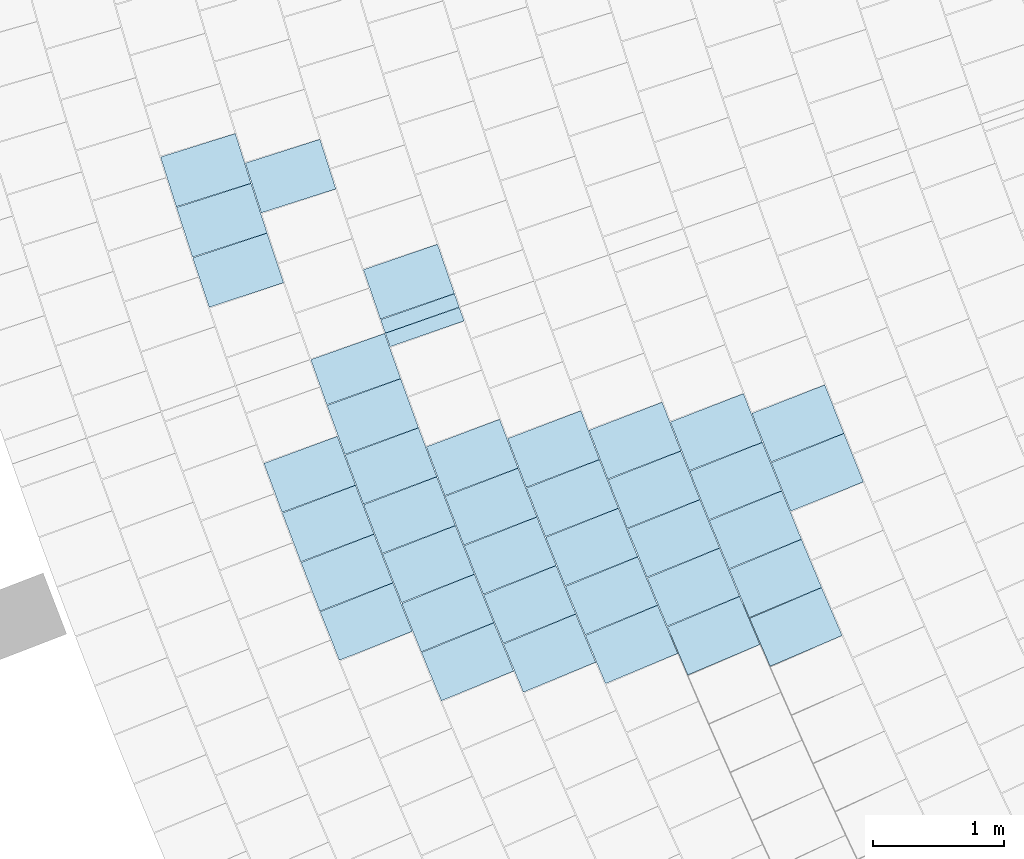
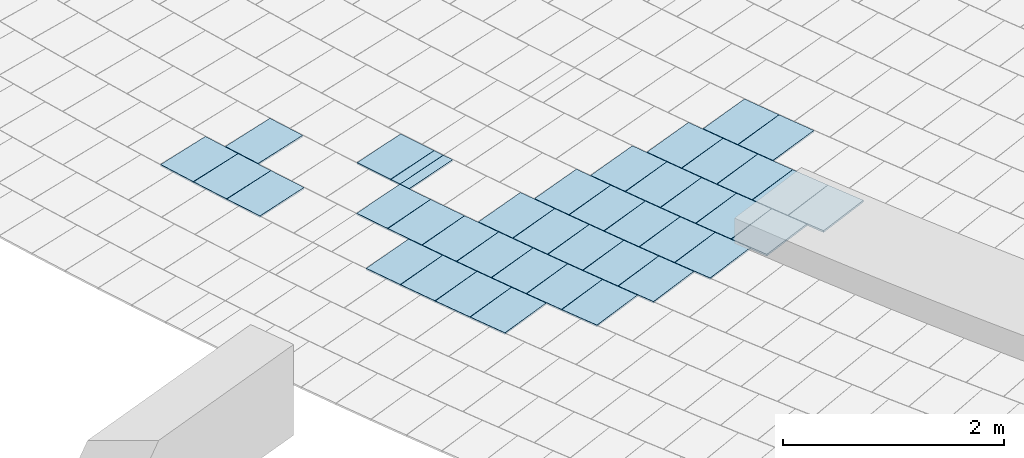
# One storey, part 69 of 438: 40 slabs.
"""IFC2X3 building model written with IfcOpenShell, lengths in millimetres."""

from ifc_helpers import new_model, entity, si_unit, converted_unit, derived_unit, direction, frame, frame_2d, origin, place, context, subcontext, project, spatial, polyline, rectangle, outline, extrude, material, layer, layer_set, layer_usage, type_object, element, save


model = new_model("IFC2X3")

# Units and contexts
model_context = context("Model", 3, precision=0.01, world=origin(), true_north=direction((6.123031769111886e-17, 1.0)))
body_context = subcontext(model_context, "Body", "Model", "MODEL_VIEW")
ifc_project = project(units=[si_unit("LENGTHUNIT", "METRE", prefix="MILLI"), si_unit("AREAUNIT", "SQUARE_METRE"), si_unit("VOLUMEUNIT", "CUBIC_METRE"), converted_unit("PLANEANGLEUNIT", "DEGREE", entity("IfcRatioMeasure", 0.017453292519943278), si_unit("PLANEANGLEUNIT", "RADIAN"), dimensions=[0, 0, 0, 0, 0, 0, 0]), si_unit("MASSUNIT", "GRAM", prefix="KILO"), derived_unit("MASSDENSITYUNIT", [(si_unit("MASSUNIT", "GRAM", prefix="KILO"), 1), (si_unit("LENGTHUNIT", "METRE"), -3)]), derived_unit("MOMENTOFINERTIAUNIT", [(si_unit("LENGTHUNIT", "METRE"), 4)]), si_unit("TIMEUNIT", "SECOND"), si_unit("FREQUENCYUNIT", "HERTZ"), si_unit("THERMODYNAMICTEMPERATUREUNIT", "DEGREE_CELSIUS"), derived_unit("THERMALTRANSMITTANCEUNIT", [(si_unit("MASSUNIT", "GRAM", prefix="KILO"), 1), (si_unit("THERMODYNAMICTEMPERATUREUNIT", "KELVIN"), -1), (si_unit("TIMEUNIT", "SECOND"), -3)]), derived_unit("THERMALCONDUCTANCEUNIT", [(si_unit("MASSUNIT", "GRAM", prefix="KILO"), 1), (si_unit("LENGTHUNIT", "METRE"), 1), (si_unit("THERMODYNAMICTEMPERATUREUNIT", "KELVIN"), -1), (si_unit("TIMEUNIT", "SECOND"), -3)]), derived_unit("VOLUMETRICFLOWRATEUNIT", [(si_unit("LENGTHUNIT", "METRE"), 3), (si_unit("TIMEUNIT", "SECOND"), -1)]), derived_unit("MASSFLOWRATEUNIT", [(si_unit("MASSUNIT", "GRAM", prefix="KILO"), 1), (si_unit("TIMEUNIT", "SECOND"), -1)]), derived_unit("ROTATIONALFREQUENCYUNIT", [(si_unit("TIMEUNIT", "SECOND"), -1)]), si_unit("ELECTRICCURRENTUNIT", "AMPERE"), si_unit("ELECTRICVOLTAGEUNIT", "VOLT"), si_unit("POWERUNIT", "WATT"), converted_unit("FORCEUNIT", "KIP", entity("IfcRatioMeasure", 2.088543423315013e-05), si_unit("FORCEUNIT", "NEWTON"), dimensions=[1, 1, -2, 0, 0, 0, 0]), si_unit("ILLUMINANCEUNIT", "LUX"), si_unit("LUMINOUSFLUXUNIT", "LUMEN"), si_unit("LUMINOUSINTENSITYUNIT", "CANDELA"), derived_unit("USERDEFINED", [(si_unit("MASSUNIT", "GRAM", prefix="KILO"), -1), (si_unit("LENGTHUNIT", "METRE"), -2), (si_unit("TIMEUNIT", "SECOND"), 3), (si_unit("LUMINOUSFLUXUNIT", "LUMEN"), 1)]), derived_unit("USERDEFINED", [(si_unit("MASSUNIT", "GRAM", prefix="KILO"), 1), (si_unit("LENGTHUNIT", "METRE"), 3), (si_unit("TIMEUNIT", "SECOND"), -3), (si_unit("ELECTRICCURRENTUNIT", "AMPERE"), -2)]), derived_unit("USERDEFINED", [(si_unit("LENGTHUNIT", "METRE"), 2), (si_unit("TIMEUNIT", "SECOND"), -2)]), derived_unit("SOUNDPOWERUNIT", [(si_unit("MASSUNIT", "GRAM", prefix="KILO"), 1), (si_unit("LENGTHUNIT", "METRE"), 2), (si_unit("TIMEUNIT", "SECOND"), -3)]), derived_unit("SOUNDPRESSUREUNIT", [(si_unit("MASSUNIT", "GRAM", prefix="KILO"), 1), (si_unit("LENGTHUNIT", "METRE"), -1), (si_unit("TIMEUNIT", "SECOND"), -2)]), derived_unit("LINEARVELOCITYUNIT", [(si_unit("LENGTHUNIT", "METRE"), 1), (si_unit("TIMEUNIT", "SECOND"), -1)]), si_unit("PRESSUREUNIT", "PASCAL"), derived_unit("USERDEFINED", [(si_unit("LENGTHUNIT", "METRE"), -2), (si_unit("MASSUNIT", "GRAM", prefix="KILO"), 1), (si_unit("TIMEUNIT", "SECOND"), -2)]), derived_unit("LINEARFORCEUNIT", [(si_unit("MASSUNIT", "GRAM", prefix="KILO"), 1), (si_unit("LENGTHUNIT", "METRE"), 1), (si_unit("TIMEUNIT", "SECOND"), -2), (si_unit("LENGTHUNIT", "METRE"), -1)]), derived_unit("PLANARFORCEUNIT", [(si_unit("MASSUNIT", "GRAM", prefix="KILO"), 1), (si_unit("LENGTHUNIT", "METRE"), 1), (si_unit("TIMEUNIT", "SECOND"), -2), (si_unit("LENGTHUNIT", "METRE"), -2)]), derived_unit("SPECIFICHEATCAPACITYUNIT", [(si_unit("LENGTHUNIT", "METRE"), 2), (si_unit("TIMEUNIT", "SECOND"), -2), (si_unit("THERMODYNAMICTEMPERATUREUNIT", "KELVIN"), -1)]), derived_unit("VAPORPERMEABILITYUNIT", [(si_unit("TIMEUNIT", "SECOND"), 1), (si_unit("LENGTHUNIT", "METRE"), -1)]), derived_unit("DYNAMICVISCOSITYUNIT", [(si_unit("MASSUNIT", "GRAM", prefix="KILO"), 1), (si_unit("LENGTHUNIT", "METRE"), -1), (si_unit("TIMEUNIT", "SECOND"), -1)]), derived_unit("THERMALEXPANSIONCOEFFICIENTUNIT", [(si_unit("THERMODYNAMICTEMPERATUREUNIT", "KELVIN"), -1)])], contexts=[model_context])

# Site, building, storey
site_placement = place(None, frame((0.0, 0.0, 0.0), z_axis=(0.0, 0.0, 1.0), x_axis=(0.8191520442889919, 0.5735764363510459, 0.0)))
site = spatial("IfcSite", under=ifc_project, at=site_placement, Name="Default", CompositionType="ELEMENT")
building_placement = place(site_placement, origin())
building = spatial("IfcBuilding", under=site, at=building_placement, CompositionType="ELEMENT")
storey_placement = place(building_placement, origin())
storey = spatial("IfcBuildingStorey", under=building, at=storey_placement, Name="PLAN", CompositionType="ELEMENT", Elevation=0.0)

# Slabs
ifc_material = material(Name="Paint-01")
ifc_layer = layer(ifc_material, 20.00000000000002)
ifc_layer_set = layer_set([ifc_layer], Name="Floor:Slab-179:1000")
ifc_layer_usage = layer_usage(ifc_layer_set, "AXIS3", "POSITIVE", 0.0)
slab_type = type_object("IfcSlabType", Name="Floor:Slab-179:1000", PredefinedType="FLOOR", material=ifc_layer_set)
slab_1_placement = place(storey_placement, origin())
element("IfcSlab", 1, at=slab_1_placement, inside=storey, type_object=slab_type, material=ifc_layer_usage, Name="Floor:Slab-179:1000", ObjectType="Floor:Slab-179:1000", PredefinedType="FLOOR", context=body_context, shape_type="SweptSolid", body=[
    extrude(outline(polyline([(-200.00000453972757, -299.9999986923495), (200.00000134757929, -299.9999986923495), (200.00000453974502, 299.9999986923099), (-200.00000134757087, 299.9999986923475), (-200.00000453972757, -299.9999986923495)])), frame((-85806.85653286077, -57363.253974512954, 520.0), z_axis=(0.0, 0.0, -1.0), x_axis=(-0.226645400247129, -0.973977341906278, 0.0)), (0.0, 0.0, 1.0), 20.000000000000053),
])
slab_2_placement = place(storey_placement, origin())
element("IfcSlab", 2, at=slab_2_placement, inside=storey, type_object=slab_type, material=ifc_layer_usage, Name="Floor:Slab-179:1000", ObjectType="Floor:Slab-179:1000", PredefinedType="FLOOR", context=body_context, shape_type="SweptSolid", body=[
    extrude(outline(polyline([(-200.00000453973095, -299.9999986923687), (200.00000134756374, -299.99999869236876), (200.00000453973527, 299.99999869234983), (-200.0000013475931, 299.999998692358), (-200.00000453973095, -299.9999986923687)])), frame((-85713.92381791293, -56971.54469701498, 520.0), z_axis=(0.0, 0.0, -1.0), x_axis=(-0.2350331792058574, -0.9719873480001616, 0.0)), (0.0, 0.0, 1.0), 20.000000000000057),
])
slab_3_placement = place(storey_placement, origin())
element("IfcSlab", 3, at=slab_3_placement, inside=storey, type_object=slab_type, material=ifc_layer_usage, Name="Floor:Slab-179:1000", ObjectType="Floor:Slab-179:1000", PredefinedType="FLOOR", context=body_context, shape_type="SweptSolid", body=[
    extrude(outline(polyline([(-300.0, -200.0000029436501), (299.9999976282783, -200.0000029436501), (300.0, 200.00000294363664), (-299.9999976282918, 200.00000294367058), (-300.0, -200.0000029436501)])), frame((-86619.99740185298, -58238.36768819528, 520.0), z_axis=(0.0, 0.0, -1.0), x_axis=(0.9787101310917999, -0.20524736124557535, 0.0)), (0.0, 0.0, 1.0), 20.000000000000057),
])
slab_4_placement = place(storey_placement, origin())
element("IfcSlab", 4, at=slab_4_placement, inside=storey, type_object=slab_type, material=ifc_layer_usage, Name="Floor:Slab-179:1000", ObjectType="Floor:Slab-179:1000", PredefinedType="FLOOR", context=body_context, shape_type="SweptSolid", body=[
    extrude(outline(polyline([(-300.0, -200.0000029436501), (299.9999976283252, -200.0000029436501), (300.0, 200.00000294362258), (-299.9999976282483, 200.0000029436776), (-300.0, -200.0000029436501)])), frame((-86535.69965867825, -57844.74373704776, 520.0), z_axis=(0.0, 0.0, -1.0), x_axis=(0.9769281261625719, -0.21356834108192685, 0.0)), (0.0, 0.0, 1.0), 20.000000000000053),
])
slab_5_placement = place(storey_placement, origin())
element("IfcSlab", 5, at=slab_5_placement, inside=storey, type_object=slab_type, material=ifc_layer_usage, Name="Floor:Slab-179:1000", ObjectType="Floor:Slab-179:1000", PredefinedType="FLOOR", context=body_context, shape_type="SweptSolid", body=[
    extrude(outline(polyline([(-300.0, -200.00000294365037), (299.9999976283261, -200.00000294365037), (300.0, 200.00000294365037), (-299.99999762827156, 200.0000029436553), (-300.0, -200.00000294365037)])), frame((-86357.07095314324, -57059.71905666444, 520.0), z_axis=(0.0, 0.0, -1.0), x_axis=(0.9731520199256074, -0.23016330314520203, 0.0)), (0.0, 0.0, 1.0), 20.000000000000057),
])
slab_6_placement = place(storey_placement, origin())
element("IfcSlab", 6, at=slab_6_placement, inside=storey, type_object=slab_type, material=ifc_layer_usage, Name="Floor:Slab-179:1000", ObjectType="Floor:Slab-179:1000", PredefinedType="FLOOR", context=body_context, shape_type="SweptSolid", body=[
    extrude(outline(polyline([(-300.0, -200.0000029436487), (299.99999762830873, -200.0000029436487), (300.0, 200.0000029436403), (-299.99999762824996, 200.00000294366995), (-300.0, -200.0000029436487)])), frame((-86262.75292604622, -56668.375174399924, 520.0), z_axis=(0.0, 0.0, -1.0), x_axis=(0.9711581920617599, -0.23843608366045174, 0.0)), (0.0, 0.0, 1.0), 20.000000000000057),
])
slab_7_placement = place(storey_placement, origin())
element("IfcSlab", 7, at=slab_7_placement, inside=storey, type_object=slab_type, material=ifc_layer_usage, Name="Floor:Slab-179:1000", ObjectType="Floor:Slab-179:1000", PredefinedType="FLOOR", context=body_context, shape_type="SweptSolid", body=[
    extrude(outline(polyline([(-300.0, -200.0000029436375), (299.9999976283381, -200.0000029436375), (300.0, 200.00000294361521), (-299.9999976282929, 200.00000294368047), (-300.0, -200.0000029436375)])), frame((-86448.05539354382, -57451.85137620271, 520.0), z_axis=(0.0, 0.0, -1.0), x_axis=(0.9750753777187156, -0.22187385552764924, 0.0)), (0.0, 0.0, 1.0), 19.99999999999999),
])
slab_8_placement = place(storey_placement, origin())
element("IfcSlab", 8, at=slab_8_placement, inside=storey, type_object=slab_type, material=ifc_layer_usage, Name="Floor:Slab-179:1000", ObjectType="Floor:Slab-179:1000", PredefinedType="FLOOR", context=body_context, shape_type="SweptSolid", body=[
    extrude(outline(polyline([(-300.0, -200.0000029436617), (299.99999762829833, -200.00000294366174), (300.0, 200.00000294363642), (-299.99999762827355, 200.0000029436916), (-300.0, -200.0000029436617)])), frame((-86998.75640087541, -57146.70456927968, 520.0), z_axis=(0.0, 0.0, -1.0), x_axis=(0.9742567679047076, -0.22544123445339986, 0.0)), (0.0, 0.0, 1.0), 19.999999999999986),
])
slab_9_placement = place(storey_placement, origin())
element("IfcSlab", 9, at=slab_9_placement, inside=storey, type_object=slab_type, material=ifc_layer_usage, Name="Floor:Slab-179:1000", ObjectType="Floor:Slab-179:1000", PredefinedType="FLOOR", context=body_context, shape_type="SweptSolid", body=[
    extrude(outline(polyline([(-300.0, -200.0000029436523), (299.9999976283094, -200.0000029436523), (300.0, 200.00000294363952), (-299.9999976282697, 200.00000294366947), (-300.0, -200.0000029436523)])), frame((-86906.36593836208, -56754.93437642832, 520.0), z_axis=(0.0, 0.0, -1.0), x_axis=(0.9723283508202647, -0.23361844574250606, 0.0)), (0.0, 0.0, 1.0), 20.000000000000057),
])
slab_10_placement = place(storey_placement, origin())
element("IfcSlab", 10, at=slab_10_placement, inside=storey, type_object=slab_type, material=ifc_layer_usage, Name="Floor:Slab-179:1000", ObjectType="Floor:Slab-179:1000", PredefinedType="FLOOR", context=body_context, shape_type="SweptSolid", body=[
    extrude(outline(polyline([(-300.0, -200.00000294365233), (299.9999976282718, -200.00000294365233), (300.0, 200.00000294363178), (-299.99999762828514, 200.0000029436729), (-300.0, -200.00000294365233)])), frame((-87173.6469439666, -57932.504408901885, 520.0), z_axis=(0.0, 0.0, -1.0), x_axis=(0.977907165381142, -0.20903965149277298, 0.0)), (0.0, 0.0, 1.0), 19.99999999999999),
])
slab_11_placement = place(storey_placement, origin())
element("IfcSlab", 11, at=slab_11_placement, inside=storey, type_object=slab_type, material=ifc_layer_usage, Name="Floor:Slab-179:1000", ObjectType="Floor:Slab-179:1000", PredefinedType="FLOOR", context=body_context, shape_type="SweptSolid", body=[
    extrude(outline(polyline([(-300.0, -200.00000294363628), (299.9999976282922, -200.0000029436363), (300.0, 200.00000294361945), (-299.9999976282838, 200.0000029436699), (-300.0, -200.00000294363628)])), frame((-86810.68729959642, -56363.95422392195, 520.0), z_axis=(0.0, 0.0, -1.0), x_axis=(0.970331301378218, -0.24177916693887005, 0.0)), (0.0, 0.0, 1.0), 20.000000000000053),
])
slab_12_placement = place(storey_placement, origin())
element("IfcSlab", 12, at=slab_12_placement, inside=storey, type_object=slab_type, material=ifc_layer_usage, Name="Floor:Slab-179:1000", ObjectType="Floor:Slab-179:1000", PredefinedType="FLOOR", context=body_context, shape_type="SweptSolid", body=[
    extrude(outline(polyline([(-300.0, -200.00000294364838), (299.9999976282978, -200.00000294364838), (300.0, 200.00000294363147), (-299.9999976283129, 200.0000029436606), (-300.0, -200.00000294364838)])), frame((-87087.85216570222, -57539.237149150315, 520.0), z_axis=(0.0, 0.0, -1.0), x_axis=(0.976116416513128, -0.21724811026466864, 0.0)), (0.0, 0.0, 1.0), 19.99999999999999),
])
slab_13_placement = place(storey_placement, origin())
element("IfcSlab", 13, at=slab_13_placement, inside=storey, type_object=slab_type, material=ifc_layer_usage, Name="Floor:Slab-179:1000", ObjectType="Floor:Slab-179:1000", PredefinedType="FLOOR", context=body_context, shape_type="SweptSolid", body=[
    extrude(outline(polyline([(-300.0, -200.0000029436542), (299.99999762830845, -200.0000029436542), (300.0, 200.00000294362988), (-299.99999762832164, 200.00000294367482), (-300.0, -200.0000029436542)])), frame((-87726.61623565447, -57626.8163084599, 520.0), z_axis=(0.0, 0.0, -1.0), x_axis=(0.9771102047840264, -0.2127337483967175, 0.0)), (0.0, 0.0, 1.0), 20.000000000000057),
])
slab_14_placement = place(storey_placement, origin())
element("IfcSlab", 14, at=slab_14_placement, inside=storey, type_object=slab_type, material=ifc_layer_usage, Name="Floor:Slab-179:1000", ObjectType="Floor:Slab-179:1000", PredefinedType="FLOOR", context=body_context, shape_type="SweptSolid", body=[
    extrude(outline(polyline([(-300.0, -200.00000294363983), (299.9999976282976, -200.00000294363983), (300.0, 200.00000294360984), (-299.99999762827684, 200.00000294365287), (-300.0, -200.00000294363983)])), frame((-87639.36343070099, -57233.90227026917, 520.0), z_axis=(0.0, 0.0, -1.0), x_axis=(0.9753117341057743, -0.22083256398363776, 0.0)), (0.0, 0.0, 1.0), 20.000000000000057),
])
slab_15_placement = place(storey_placement, origin())
element("IfcSlab", 15, at=slab_15_placement, inside=storey, type_object=slab_type, material=ifc_layer_usage, Name="Floor:Slab-179:1000", ObjectType="Floor:Slab-179:1000", PredefinedType="FLOOR", context=body_context, shape_type="SweptSolid", body=[
    extrude(outline(polyline([(-300.0, -200.00000294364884), (299.99999762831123, -200.00000294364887), (300.0, 200.00000294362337), (-299.9999976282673, 200.00000294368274), (-300.0, -200.00000294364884)])), frame((-87455.09417708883, -56450.31330507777, 520.0), z_axis=(0.0, 0.0, -1.0), x_axis=(0.9715135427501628, -0.23698404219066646, 0.0)), (0.0, 0.0, 1.0), 20.000000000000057),
])
slab_16_placement = place(storey_placement, origin())
element("IfcSlab", 16, at=slab_16_placement, inside=storey, type_object=slab_type, material=ifc_layer_usage, Name="Floor:Slab-179:1000", ObjectType="Floor:Slab-179:1000", PredefinedType="FLOOR", context=body_context, shape_type="SweptSolid", body=[
    extrude(outline(polyline([(-300.0, -200.00000294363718), (299.99999762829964, -200.00000294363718), (300.0, 200.0000029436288), (-299.9999976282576, 200.00000294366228), (-300.0, -200.00000294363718)])), frame((-87358.0904108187, -56059.692308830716, 520.0), z_axis=(0.0, 0.0, -1.0), x_axis=(0.9695140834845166, -0.2450355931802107, 0.0)), (0.0, 0.0, 1.0), 20.000000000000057),
])
slab_17_placement = place(storey_placement, origin())
element("IfcSlab", 17, at=slab_17_placement, inside=storey, type_object=slab_type, material=ifc_layer_usage, Name="Floor:Slab-179:1000", ObjectType="Floor:Slab-179:1000", PredefinedType="FLOOR", context=body_context, shape_type="SweptSolid", body=[
    extrude(outline(polyline([(-300.0, -200.00000294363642), (299.99999762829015, -200.00000294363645), (300.0, 200.0000029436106), (-299.9999976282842, 200.0000029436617), (-300.0, -200.00000294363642)])), frame((-87548.85400139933, -56841.7256052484, 520.0), z_axis=(0.0, 0.0, -1.0), x_axis=(0.9734461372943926, -0.22891618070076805, 0.0)), (0.0, 0.0, 1.0), 19.99999999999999),
])
slab_18_placement = place(storey_placement, origin())
element("IfcSlab", 18, at=slab_18_placement, inside=storey, type_object=slab_type, material=ifc_layer_usage, Name="Floor:Slab-179:1000", ObjectType="Floor:Slab-179:1000", PredefinedType="FLOOR", context=body_context, shape_type="SweptSolid", body=[
    extrude(outline(polyline([(-300.0, -200.00000294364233), (299.99999762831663, -200.00000294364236), (300.0, 200.00000294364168), (-299.99999762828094, 200.00000294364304), (-300.0, -200.00000294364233)])), frame((-88190.25795387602, -56928.7349743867, 520.0), z_axis=(0.0, 0.0, -1.0), x_axis=(0.9745143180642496, -0.22432530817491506, 0.0)), (0.0, 0.0, 1.0), 19.99999999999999),
])
slab_19_placement = place(storey_placement, origin())
element("IfcSlab", 19, at=slab_19_placement, inside=storey, type_object=slab_type, material=ifc_layer_usage, Name="Floor:Slab-179:1000", ObjectType="Floor:Slab-179:1000", PredefinedType="FLOOR", context=body_context, shape_type="SweptSolid", body=[
    extrude(outline(polyline([(-300.0, -200.00000294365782), (299.99999762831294, -200.00000294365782), (300.0, 200.00000294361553), (-299.9999976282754, 200.00000294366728), (-300.0, -200.00000294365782)])), frame((-88278.93126083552, -57321.2993386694, 520.0), z_axis=(0.0, 0.0, -1.0), x_axis=(0.9763195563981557, -0.2163333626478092, 0.0)), (0.0, 0.0, 1.0), 20.000000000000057),
])
slab_20_placement = place(storey_placement, origin())
element("IfcSlab", 20, at=slab_20_placement, inside=storey, type_object=slab_type, material=ifc_layer_usage, Name="Floor:Slab-179:1000", ObjectType="Floor:Slab-179:1000", PredefinedType="FLOOR", context=body_context, shape_type="SweptSolid", body=[
    extrude(outline(polyline([(-300.0, -200.00000294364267), (299.9999976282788, -200.00000294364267), (300.0, 200.000002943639), (-299.99999762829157, 200.00000294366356), (-300.0, -200.00000294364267)])), frame((-88098.37125468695, -56536.91030698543, 520.0), z_axis=(0.0, 0.0, -1.0), x_axis=(0.9726436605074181, -0.23230219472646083, 0.0)), (0.0, 0.0, 1.0), 19.99999999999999),
])
slab_21_placement = place(storey_placement, origin())
element("IfcSlab", 21, at=slab_21_placement, inside=storey, type_object=slab_type, material=ifc_layer_usage, Name="Floor:Slab-179:1000", ObjectType="Floor:Slab-179:1000", PredefinedType="FLOOR", context=body_context, shape_type="SweptSolid", body=[
    extrude(outline(polyline([(-300.0, -200.00000294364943), (299.999997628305, -200.00000294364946), (300.0, 200.00000294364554), (-299.999997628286, 200.00000294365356), (-300.0, -200.00000294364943)])), frame((-87904.98256836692, -55755.58522428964, 520.0), z_axis=(0.0, 0.0, -1.0), x_axis=(0.9687065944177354, -0.24820864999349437, 0.0)), (0.0, 0.0, 1.0), 20.000000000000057),
])
slab_22_placement = place(storey_placement, origin())
element("IfcSlab", 22, at=slab_22_placement, inside=storey, type_object=slab_type, material=ifc_layer_usage, Name="Floor:Slab-179:1000", ObjectType="Floor:Slab-179:1000", PredefinedType="FLOOR", context=body_context, shape_type="SweptSolid", body=[
    extrude(outline(polyline([(-300.0, -200.00000294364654), (299.99999762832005, -200.00000294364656), (300.0, 200.0000029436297), (-299.9999976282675, 200.00000294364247), (-300.0, -200.00000294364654)])), frame((-88003.27733162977, -56145.85163968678, 520.0), z_axis=(0.0, 0.0, -1.0), x_axis=(0.9707077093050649, -0.24026348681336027, 0.0)), (0.0, 0.0, 1.0), 19.99999999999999),
])
slab_23_placement = place(storey_placement, origin())
element("IfcSlab", 23, at=slab_23_placement, inside=storey, type_object=slab_type, material=ifc_layer_usage, Name="Floor:Slab-179:1000", ObjectType="Floor:Slab-179:1000", PredefinedType="FLOOR", context=body_context, shape_type="SweptSolid", body=[
    extrude(outline(polyline([(-299.99999898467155, -54.944499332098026), (299.9999984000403, -54.944499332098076), (299.99999898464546, 54.94449933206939), (-299.9999984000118, 54.94449933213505), (-299.99999898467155, -54.944499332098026)])), frame((-87630.40698293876, -54729.39008804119, 520.0), z_axis=(0.0, 0.0, -1.0), x_axis=(0.9623136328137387, -0.27194203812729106, 0.0)), (0.0, 0.0, 1.0), 19.999999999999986),
])
slab_24_placement = place(storey_placement, origin())
element("IfcSlab", 24, at=slab_24_placement, inside=storey, type_object=slab_type, material=ifc_layer_usage, Name="Floor:Slab-179:1000", ObjectType="Floor:Slab-179:1000", PredefinedType="FLOOR", context=body_context, shape_type="SweptSolid", body=[
    extrude(outline(polyline([(-300.0, -200.0000029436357), (299.999997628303, -200.0000029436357), (300.0, 200.0000029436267), (-299.9999976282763, 200.00000294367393), (-300.0, -200.0000029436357)])), frame((-88740.55901155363, -56623.73122591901, 520.0), z_axis=(0.0, 0.0, -1.0), x_axis=(0.9737243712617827, -0.22772977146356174, 0.0)), (0.0, 0.0, 1.0), 20.000000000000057),
])
slab_25_placement = place(storey_placement, origin())
element("IfcSlab", 25, at=slab_25_placement, inside=storey, type_object=slab_type, material=ifc_layer_usage, Name="Floor:Slab-179:1000", ObjectType="Floor:Slab-179:1000", PredefinedType="FLOOR", context=body_context, shape_type="SweptSolid", body=[
    extrude(outline(polyline([(-300.0, -200.0000029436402), (299.99999762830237, -200.00000294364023), (300.0, 200.0000029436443), (-299.9999976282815, 200.00000294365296), (-300.0, -200.0000029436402)])), frame((-88647.33006775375, -56232.25459992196, 520.0), z_axis=(0.0, 0.0, -1.0), x_axis=(0.9718494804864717, -0.23560260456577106, 0.0)), (0.0, 0.0, 1.0), 19.99999999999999),
])
slab_26_placement = place(storey_placement, origin())
element("IfcSlab", 26, at=slab_26_placement, inside=storey, type_object=slab_type, material=ifc_layer_usage, Name="Floor:Slab-179:1000", ObjectType="Floor:Slab-179:1000", PredefinedType="FLOOR", context=body_context, shape_type="SweptSolid", body=[
    extrude(outline(polyline([(-300.0, -200.00000294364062), (299.9999976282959, -200.0000029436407), (300.0, 200.00000294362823), (-299.999997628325, 200.00000294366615), (-300.0, -200.00000294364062)])), frame((-88451.38306485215, -55451.62888691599, 520.0), z_axis=(0.0, 0.0, -1.0), x_axis=(0.9679088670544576, -0.2513014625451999, 0.0)), (0.0, 0.0, 1.0), 20.000000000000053),
])
slab_27_placement = place(storey_placement, origin())
element("IfcSlab", 27, at=slab_27_placement, inside=storey, type_object=slab_type, material=ifc_layer_usage, Name="Floor:Slab-179:1000", ObjectType="Floor:Slab-179:1000", PredefinedType="FLOOR", context=body_context, shape_type="SweptSolid", body=[
    extrude(outline(polyline([(-300.0, -200.00000294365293), (299.9999976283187, -200.00000294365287), (300.0, 200.0000029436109), (-299.9999976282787, 200.00000294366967), (-300.0, -200.00000294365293)])), frame((-88550.93598102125, -55841.54529019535, 520.0), z_axis=(0.0, 0.0, -1.0), x_axis=(0.9699109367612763, -0.24346000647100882, 0.0)), (0.0, 0.0, 1.0), 20.000000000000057),
])
slab_28_placement = place(storey_placement, origin())
element("IfcSlab", 28, at=slab_28_placement, inside=storey, type_object=slab_type, material=ifc_layer_usage, Name="Floor:Slab-179:1000", ObjectType="Floor:Slab-179:1000", PredefinedType="FLOOR", context=body_context, shape_type="SweptSolid", body=[
    extrude(outline(polyline([(-300.0, -200.00000294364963), (299.9999976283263, -200.0000029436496), (300.0, 200.0000029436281), (-299.9999976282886, 200.00000294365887), (-300.0, -200.00000294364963)])), frame((-88830.61670623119, -57015.949527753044, 520.0), z_axis=(0.0, 0.0, -1.0), x_axis=(0.9755354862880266, -0.21984202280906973, 0.0)), (0.0, 0.0, 1.0), 20.000000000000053),
])
slab_29_placement = place(storey_placement, origin())
element("IfcSlab", 29, at=slab_29_placement, inside=storey, type_object=slab_type, material=ifc_layer_usage, Name="Floor:Slab-179:1000", ObjectType="Floor:Slab-179:1000", PredefinedType="FLOOR", context=body_context, shape_type="SweptSolid", body=[
    extrude(rectangle(XDim=599.9999669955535, YDim=399.99998562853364, at=frame_2d((-9.492850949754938e-12, -1.9610979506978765e-12), x_axis=(1.0, 0.0))), frame((-88348.76403651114, -55062.60668179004, 520.0), z_axis=(0.0, 0.0, -1.0), x_axis=(0.965925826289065, -0.25881904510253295, 0.0)), (0.0, 0.0, 1.0), 19.99999999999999),
])
slab_30_placement = place(storey_placement, origin())
element("IfcSlab", 30, at=slab_30_placement, inside=storey, type_object=slab_type, material=ifc_layer_usage, Name="Floor:Slab-179:1000", ObjectType="Floor:Slab-179:1000", PredefinedType="FLOOR", context=body_context, shape_type="SweptSolid", body=[
    extrude(outline(polyline([(-300.0, -183.4419543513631), (299.9999977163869, -183.44195435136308), (300.0, 183.441954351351), (-299.9999977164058, 183.44195435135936), (-300.0, -183.4419543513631)])), frame((-88247.2469462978, -54690.23413356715, 520.0), z_axis=(0.0, 0.0, -1.0), x_axis=(0.9637146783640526, -0.2669344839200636, 0.0)), (0.0, 0.0, 1.0), 19.99999999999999),
])
slab_31_placement = place(storey_placement, origin())
element("IfcSlab", 31, at=slab_31_placement, inside=storey, type_object=slab_type, material=ifc_layer_usage, Name="Floor:Slab-179:1000", ObjectType="Floor:Slab-179:1000", PredefinedType="FLOOR", context=body_context, shape_type="SweptSolid", body=[
    extrude(outline(polyline([(-300.0, -200.0000029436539), (299.9999976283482, -200.0000029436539), (300.0, 200.00000294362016), (-299.99999762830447, 200.000002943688), (-300.0, -200.0000029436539)])), frame((-89290.28873115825, -56318.88708096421, 520.0), z_axis=(0.0, 0.0, -1.0), x_axis=(0.9729420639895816, -0.23104921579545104, 0.0)), (0.0, 0.0, 1.0), 20.000000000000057),
])
slab_32_placement = place(storey_placement, origin())
element("IfcSlab", 32, at=slab_32_placement, inside=storey, type_object=slab_type, material=ifc_layer_usage, Name="Floor:Slab-179:1000", ObjectType="Floor:Slab-179:1000", PredefinedType="FLOOR", context=body_context, shape_type="SweptSolid", body=[
    extrude(outline(polyline([(-300.0, -200.00000294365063), (299.9999976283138, -200.0000029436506), (300.0, 200.00000294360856), (-299.99999762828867, 200.0000029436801), (-300.0, -200.00000294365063)])), frame((-89195.75126572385, -55927.75451197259, 520.0), z_axis=(0.0, 0.0, -1.0), x_axis=(0.9710637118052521, -0.2388205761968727, 0.0)), (0.0, 0.0, 1.0), 19.99999999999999),
])
slab_33_placement = place(storey_placement, origin())
element("IfcSlab", 33, at=slab_33_placement, inside=storey, type_object=slab_type, material=ifc_layer_usage, Name="Floor:Slab-179:1000", ObjectType="Floor:Slab-179:1000", PredefinedType="FLOOR", context=body_context, shape_type="SweptSolid", body=[
    extrude(outline(polyline([(-300.0, -200.0000029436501), (299.99999762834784, -200.00000294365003), (300.0, 200.00000294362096), (-299.9999976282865, 200.00000294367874), (-300.0, -200.0000029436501)])), frame((-88997.31023923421, -55147.81933250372, 520.0), z_axis=(0.0, 0.0, -1.0), x_axis=(0.9671209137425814, -0.25431700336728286, 0.0)), (0.0, 0.0, 1.0), 19.99999999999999),
])
slab_34_placement = place(storey_placement, origin())
element("IfcSlab", 34, at=slab_34_placement, inside=storey, type_object=slab_type, material=ifc_layer_usage, Name="Floor:Slab-179:1000", ObjectType="Floor:Slab-179:1000", PredefinedType="FLOOR", context=body_context, shape_type="SweptSolid", body=[
    extrude(outline(polyline([(-300.0, -200.00000294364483), (299.9999976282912, -200.00000294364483), (300.0, 200.00000294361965), (-299.9999976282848, 200.00000294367), (-300.0, -200.00000294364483)])), frame((-89098.0896874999, -55537.390278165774, 520.0), z_axis=(0.0, 0.0, -1.0), x_axis=(0.9691232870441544, -0.2465766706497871, 0.0)), (0.0, 0.0, 1.0), 20.000000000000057),
])
slab_35_placement = place(storey_placement, origin())
element("IfcSlab", 35, at=slab_35_placement, inside=storey, type_object=slab_type, material=ifc_layer_usage, Name="Floor:Slab-179:1000", ObjectType="Floor:Slab-179:1000", PredefinedType="FLOOR", context=body_context, shape_type="SweptSolid", body=[
    extrude(outline(polyline([(-200.00000453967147, -299.99999869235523), (200.0000013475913, -299.99999869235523), (200.00000453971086, 299.99999869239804), (-200.00000134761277, 299.99999869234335), (-200.00000453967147, -299.99999869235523)])), frame((-87529.84544017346, -54375.39629083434, 520.0), z_axis=(0.0, 0.0, -1.0), x_axis=(-0.27630696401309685, -0.9610694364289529, 0.0)), (0.0, 0.0, 1.0), 19.99999999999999),
])
slab_36_placement = place(storey_placement, origin())
element("IfcSlab", 36, at=slab_36_placement, inside=storey, type_object=slab_type, material=ifc_layer_usage, Name="Floor:Slab-179:1000", ObjectType="Floor:Slab-179:1000", PredefinedType="FLOOR", context=body_context, shape_type="SweptSolid", body=[
    extrude(outline(polyline([(-299.99999840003, -54.94449933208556), (299.99999898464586, -54.94449933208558), (299.9999984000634, 54.94449933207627), (-299.99999898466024, 54.94449933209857), (-299.99999840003, -54.94449933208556)])), frame((-87600.52469885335, -54622.903333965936, 520.0), z_axis=(0.0, 0.0, -1.0), x_axis=(0.9633010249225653, -0.2684234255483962, 0.0)), (0.0, 0.0, 1.0), 19.999999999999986),
])
slab_37_placement = place(storey_placement, origin())
element("IfcSlab", 37, at=slab_37_placement, inside=storey, type_object=slab_type, material=ifc_layer_usage, Name="Floor:Slab-179:1000", ObjectType="Floor:Slab-179:1000", PredefinedType="FLOOR", context=body_context, shape_type="SweptSolid", body=[
    extrude(outline(polyline([(-200.00000453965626, -299.99999869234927), (200.0000013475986, -299.9999986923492), (200.0000045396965, 299.9999986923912), (-200.0000013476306, 299.99999869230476), (-200.00000453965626, -299.99999869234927)])), frame((-87808.03788790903, -53194.197238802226, 520.0), z_axis=(0.0, 0.0, -1.0), x_axis=(-0.29669979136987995, -0.9549708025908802, 0.0)), (0.0, 0.0, 1.0), 20.000000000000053),
])
slab_38_placement = place(storey_placement, origin())
element("IfcSlab", 38, at=slab_38_placement, inside=storey, type_object=slab_type, material=ifc_layer_usage, Name="Floor:Slab-179:1000", ObjectType="Floor:Slab-179:1000", PredefinedType="FLOOR", context=body_context, shape_type="SweptSolid", body=[
    extrude(outline(polyline([(-200.00000453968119, -299.9999986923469), (200.00000134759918, -299.9999986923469), (200.0000045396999, 299.9999986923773), (-200.00000134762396, 299.9999986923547), (-200.00000453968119, -299.9999986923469)])), frame((-88313.85945778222, -52785.09661455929, 520.0), z_axis=(0.0, 0.0, -1.0), x_axis=(-0.3012616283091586, -0.9535415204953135, 0.0)), (0.0, 0.0, 1.0), 20.000000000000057),
])
slab_39_placement = place(storey_placement, origin())
element("IfcSlab", 39, at=slab_39_placement, inside=storey, type_object=slab_type, material=ifc_layer_usage, Name="Floor:Slab-179:1000", ObjectType="Floor:Slab-179:1000", PredefinedType="FLOOR", context=body_context, shape_type="SweptSolid", body=[
    extrude(outline(polyline([(-200.0000045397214, -299.9999986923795), (200.00000134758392, -299.99999869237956), (200.0000045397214, 299.9999986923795), (-200.0000013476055, 299.99999869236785), (-200.0000045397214, -299.9999986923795)])), frame((-88550.16694254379, -53554.405718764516, 520.0), z_axis=(0.0, 0.0, -1.0), x_axis=(-0.28597632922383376, -0.9582366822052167, 0.0)), (0.0, 0.0, 1.0), 20.000000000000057),
])
slab_40_placement = place(storey_placement, origin())
element("IfcSlab", 40, at=slab_40_placement, inside=storey, type_object=slab_type, material=ifc_layer_usage, Name="Floor:Slab-179:1000", ObjectType="Floor:Slab-179:1000", PredefinedType="FLOOR", context=body_context, shape_type="SweptSolid", body=[
    extrude(outline(polyline([(-200.000004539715, -299.9999986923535), (200.00000134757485, -299.9999986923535), (200.000004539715, 299.9999986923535), (-200.00000134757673, 299.99999869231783), (-200.000004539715, -299.9999986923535)])), frame((-88433.5508957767, -53169.27883508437, 520.0), z_axis=(0.0, 0.0, -1.0), x_axis=(-0.29362836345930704, -0.9559196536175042, 0.0)), (0.0, 0.0, 1.0), 20.000000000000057),
])

save(model, "model.ifc")
